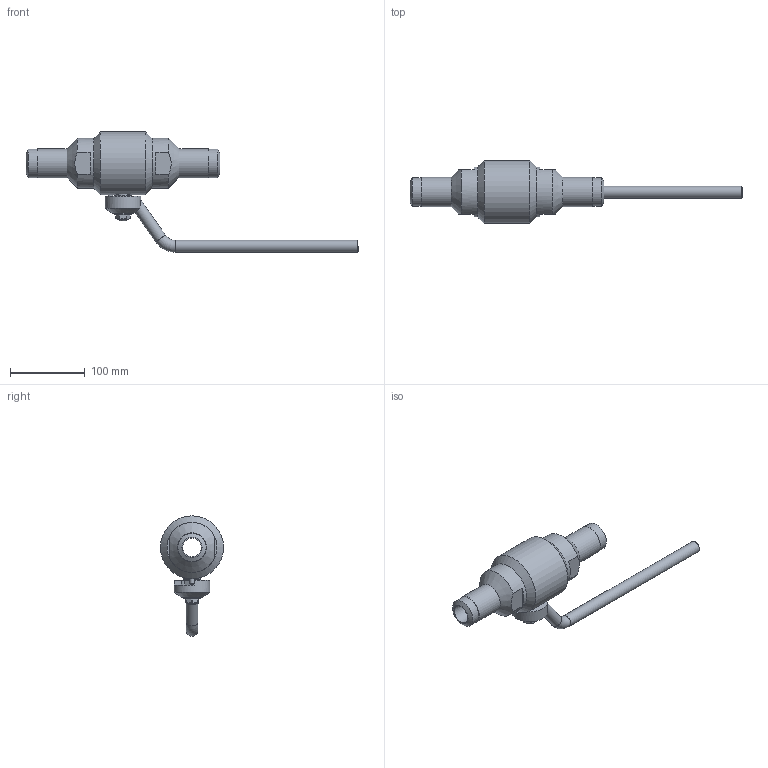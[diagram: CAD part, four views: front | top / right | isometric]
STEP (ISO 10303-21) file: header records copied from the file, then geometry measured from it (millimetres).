
FILE_DESCRIPTION(('STEP AP203'), '1');
FILE_NAME('ZARDP 025.200.40.P.stp', '2013-12-05T13:55:17', ('Øèøêî'), ('ÎÎÎ ÈÊ Ýíåðïðåä-ßðäîñ'), 'ASCON STEP Converter 1.3', 'Kompas 3D', '');
FILE_SCHEMA(('CONFIG_CONTROL_DESIGN','SUPPORT_RESOURCE_SCHEMA'));
Length unit declared in the file: millimetre
Products named in the file (1): 257
Bounding box: 445.01 x 84.5 x 161.25 mm (x, y, z)
Volume: 662060.9 mm3; surface area: 106769.8 mm2
Topology: 1 solids, 8 shells, 162 faces, 362 edges, 226 vertices
Faces by surface type: plane 80, cylinder 51, cone 23, torus 8
Full cylindrical faces by diameter (mm): 6 x2, 10 x2, 16 x3, 16.1 x1, 21.8 x1, 22 x2, 24 x1, 24.3 x1, 24.5 x1, 25 x2, 38 x2, 39 x2, 48 x1, 58.4 x1, 67 x2, 84.5 x1
Entity records: 6090 total; most frequent: CARTESIAN_POINT 2361, DIRECTION 788, ORIENTED_EDGE 724, EDGE_CURVE 362, AXIS2_PLACEMENT_3D 308, VERTEX_POINT 226, EDGE_LOOP 182, LINE 172
